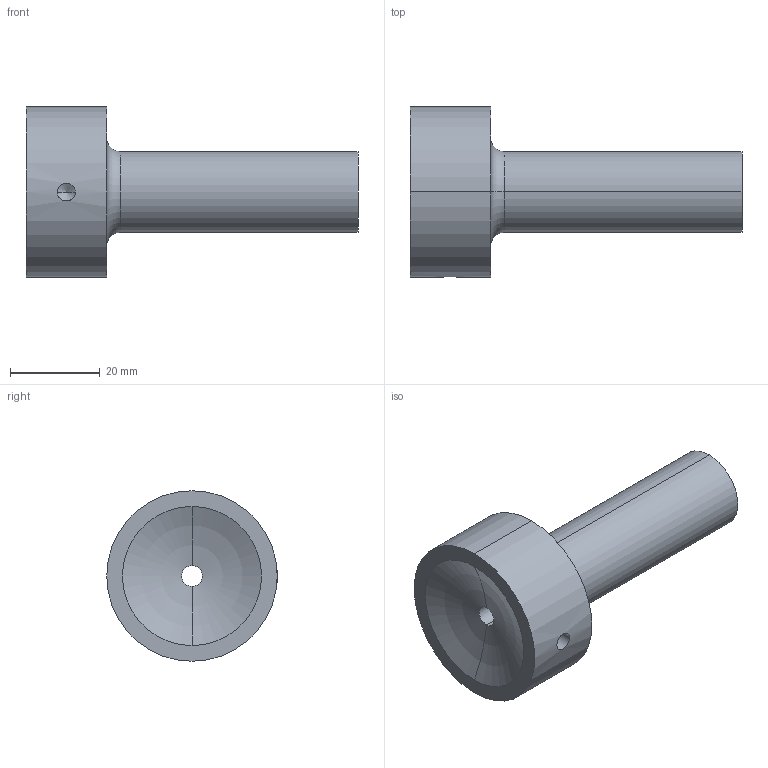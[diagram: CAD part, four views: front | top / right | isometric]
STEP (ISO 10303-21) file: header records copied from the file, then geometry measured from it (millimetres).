
FILE_DESCRIPTION (( 'STEP AP214' ), '1' );
FILE_NAME ('BR51 18x56x4,5x40.STEP', '2019-06-05T15:21:51', ( 'August' ), ( '' ), 'SwSTEP 2.0', 'SolidWorks 2018', '' );
FILE_SCHEMA (( 'AUTOMOTIVE_DESIGN' ));
Length unit declared in the file: millimetre
Products named in the file (1): BR51 18x56x4,5x40
Bounding box: 74 x 38 x 38 mm (x, y, z)
Volume: 31060.2 mm3; surface area: 8951.6 mm2
Topology: 1 solids, 1 shells, 17 faces, 36 edges, 21 vertices
Faces by surface type: cylinder 6, cone 4, torus 4, plane 3
Entity records: 538 total; most frequent: CARTESIAN_POINT 127, DIRECTION 90, ORIENTED_EDGE 68, AXIS2_PLACEMENT_3D 40, EDGE_CURVE 34, CIRCLE 22, VERTEX_POINT 21, EDGE_LOOP 21
